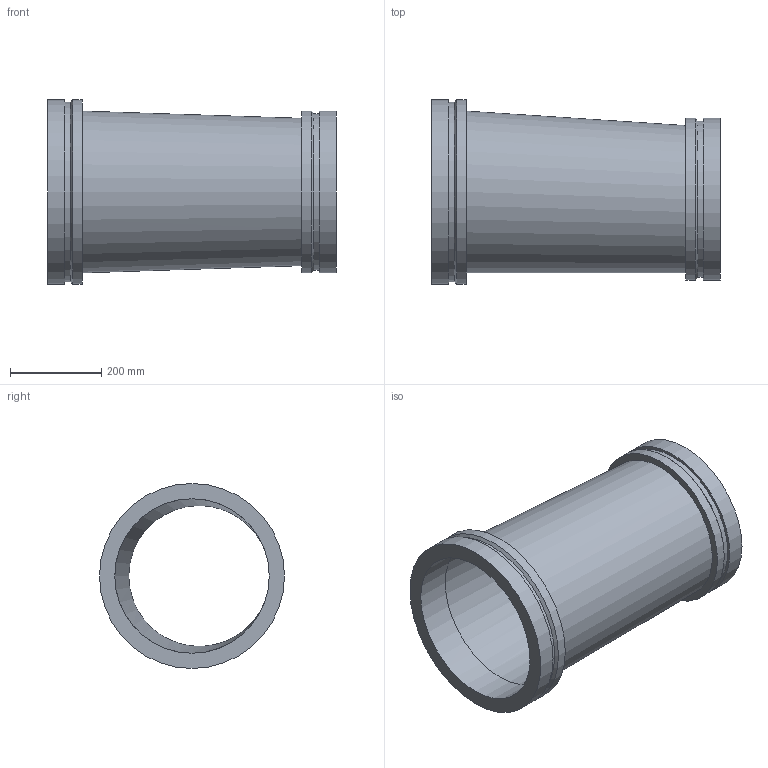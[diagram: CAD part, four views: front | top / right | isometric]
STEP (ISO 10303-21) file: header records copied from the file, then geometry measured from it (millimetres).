
FILE_DESCRIPTION(/* description */ ('VIC REDUCER ECCENTRIC No W51-VR','CAx-IF Rec.Pracs.---Representation and Presentation of Product Manufacturing Information (PMI)---4.0---2014-10-13'),/* implementation_level */ '2;1');
FILE_NAME(/* name */ 'C:\Users\kkamble\AppData\Roaming\Autodesk\ApplicationPlugins\Back Up\Victaulic_Vic-Ring_Reducer Eccentric_No W51 VR (AGR)\Victaulic_Vic-Ring_Reducer Eccentric_No W51 VR (AGR)_14.0x12.0 (350x300).stp',/* time_stamp */ '2020-09-10T11:48:41+05:00',/* author */ ('CONSTRUCTION PIPING SERVICES'),/* organization */ ('Victaulic'),/* preprocessor_version */ 'ST-DEVELOPER v17.2',/* originating_system */ 'Autodesk Inventor 2019',/* authorisation */ '');
FILE_SCHEMA (('AP242_MANAGED_MODEL_BASED_3D_ENGINEERING_MIM_LF { 1 0 10303 442 1 1 4 }'));
Length unit declared in the file: inch
Products named in the file (1): W51 VR-14.0x12.0
Bounding box: 635 x 406.4 x 406.4 mm (x, y, z)
Volume: 8403746.5 mm3; surface area: 1477220.4 mm2
Topology: 1 solids, 1 shells, 18 faces, 52 edges, 40 vertices
Faces by surface type: cylinder 8, plane 6, cone 2, bspline 2
Full cylindrical faces by diameter (mm): 309.677 x1, 339.598 x1, 342.9 x1, 355.6 x2, 393.7 x1, 406.4 x2
Entity records: 822 total; most frequent: CARTESIAN_POINT 164, DIRECTION 150, ORIENTED_EDGE 104, AXIS2_PLACEMENT_3D 70, EDGE_CURVE 52, CIRCLE 40, VERTEX_POINT 40, EDGE_LOOP 24
